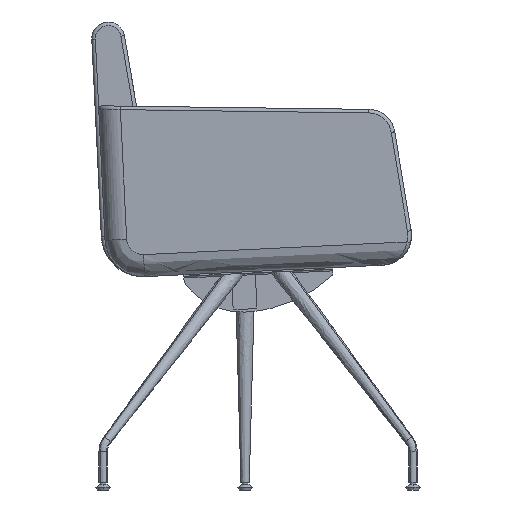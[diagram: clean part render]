
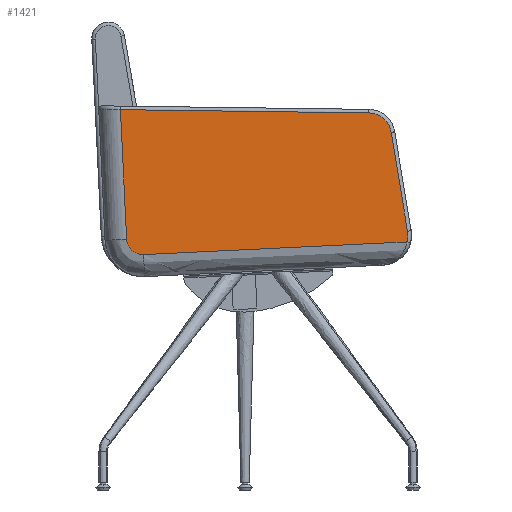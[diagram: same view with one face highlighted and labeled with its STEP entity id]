
A CAD part, left-side view. The second image highlights one B-rep face of the part: STEP entity #1421.
In plain terms, the highlighted planar face has unit normal (-1, 0.019, 0).
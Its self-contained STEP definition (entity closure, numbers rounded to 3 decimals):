
#610=(
BOUNDED_CURVE()
B_SPLINE_CURVE(3,(#11839,#11840,#11841,#11842,#11843,#11844),
 .UNSPECIFIED.,.F.,.F.)
B_SPLINE_CURVE_WITH_KNOTS((4,1,1,4),(0.574,16.302,
26.915,42.99),.UNSPECIFIED.)
CURVE()
GEOMETRIC_REPRESENTATION_ITEM()
RATIONAL_B_SPLINE_CURVE((1.,1.,1.,1.,1.,
1.))
REPRESENTATION_ITEM('')
);
#617=(
BOUNDED_CURVE()
B_SPLINE_CURVE(1,(#11862,#11863),.UNSPECIFIED.,.F.,.F.)
B_SPLINE_CURVE_WITH_KNOTS((2,2),(8.235,225.966),
 .UNSPECIFIED.)
CURVE()
GEOMETRIC_REPRESENTATION_ITEM()
RATIONAL_B_SPLINE_CURVE((1.,1.))
REPRESENTATION_ITEM('')
);
#620=(
BOUNDED_CURVE()
B_SPLINE_CURVE(3,(#11874,#11875,#11876,#11877,#11878),.UNSPECIFIED.,.F.,
 .F.)
B_SPLINE_CURVE_WITH_KNOTS((4,1,4),(0.019,27.333,54.402),
 .UNSPECIFIED.)
CURVE()
GEOMETRIC_REPRESENTATION_ITEM()
RATIONAL_B_SPLINE_CURVE((1.,1.,1.,1.,1.))
REPRESENTATION_ITEM('')
);
#624=(
BOUNDED_CURVE()
B_SPLINE_CURVE(1,(#11887,#11888),.UNSPECIFIED.,.F.,.F.)
B_SPLINE_CURVE_WITH_KNOTS((2,2),(0.117,416.598),
 .UNSPECIFIED.)
CURVE()
GEOMETRIC_REPRESENTATION_ITEM()
RATIONAL_B_SPLINE_CURVE((1.,1.))
REPRESENTATION_ITEM('')
);
#629=(
BOUNDED_CURVE()
B_SPLINE_CURVE(1,(#11908,#11909),.UNSPECIFIED.,.F.,.F.)
B_SPLINE_CURVE_WITH_KNOTS((2,2),(0.019,167.948),
 .UNSPECIFIED.)
CURVE()
GEOMETRIC_REPRESENTATION_ITEM()
RATIONAL_B_SPLINE_CURVE((1.,1.))
REPRESENTATION_ITEM('')
);
#632=(
BOUNDED_CURVE()
B_SPLINE_CURVE(3,(#11917,#11918,#11919,#11920),.UNSPECIFIED.,.F.,.F.)
B_SPLINE_CURVE_WITH_KNOTS((4,4),(-1.65,16.592),
 .UNSPECIFIED.)
CURVE()
GEOMETRIC_REPRESENTATION_ITEM()
RATIONAL_B_SPLINE_CURVE((1.,1.,1.,1.))
REPRESENTATION_ITEM('')
);
#1421=ADVANCED_FACE('',(#1796),#5342,.T.);
#1796=FACE_OUTER_BOUND('',#2174,.T.);
#2174=EDGE_LOOP('',(#3547,#3548,#3549,#3550,#3551,#3552,#3553));
#3547=ORIENTED_EDGE('',*,*,#4541,.T.);
#3548=ORIENTED_EDGE('',*,*,#4538,.T.);
#3549=ORIENTED_EDGE('',*,*,#4529,.T.);
#3550=ORIENTED_EDGE('',*,*,#4533,.T.);
#3551=ORIENTED_EDGE('',*,*,#4525,.T.);
#3552=ORIENTED_EDGE('',*,*,#4518,.F.);
#3553=ORIENTED_EDGE('',*,*,#4526,.F.);
#4518=EDGE_CURVE('',#5189,#5190,#610,.T.);
#4525=EDGE_CURVE('',#5199,#5190,#617,.T.);
#4526=EDGE_CURVE('',#5201,#5189,#4790,.T.);
#4529=EDGE_CURVE('',#5204,#5203,#620,.T.);
#4533=EDGE_CURVE('',#5203,#5199,#624,.T.);
#4538=EDGE_CURVE('',#5202,#5204,#629,.T.);
#4541=EDGE_CURVE('',#5201,#5202,#632,.T.);
#4790=B_SPLINE_CURVE_WITH_KNOTS('',1,(#11864,#11865),.UNSPECIFIED.,.F.,
 .F.,(2,2),(14.204,456.936),.UNSPECIFIED.);
#5189=VERTEX_POINT('',#11803);
#5190=VERTEX_POINT('',#11804);
#5199=VERTEX_POINT('',#11813);
#5201=VERTEX_POINT('',#11815);
#5202=VERTEX_POINT('',#11816);
#5203=VERTEX_POINT('',#11817);
#5204=VERTEX_POINT('',#11818);
#5342=PLANE('',#5484);
#5484=AXIS2_PLACEMENT_3D('',#11593,#5543,$);
#5543=DIRECTION('',(-1.,0.019,0.));
#11593=CARTESIAN_POINT('',(-1316.892,258.768,351.764));
#11803=CARTESIAN_POINT('',(-1318.189,192.279,394.941));
#11804=CARTESIAN_POINT('',(-1317.638,220.544,420.614));
#11813=CARTESIAN_POINT('',(-1317.434,231.,638.094));
#11815=CARTESIAN_POINT('',(-1326.808,-249.859,416.198));
#11816=CARTESIAN_POINT('',(-1326.824,-250.654,434.293));
#11817=CARTESIAN_POINT('',(-1325.551,-185.366,632.636));
#11818=CARTESIAN_POINT('',(-1326.291,-223.335,599.984));
#11839=CARTESIAN_POINT('',(-1318.189,192.279,394.941));
#11840=CARTESIAN_POINT('',(-1318.086,197.519,394.673));
#11841=CARTESIAN_POINT('',(-1317.914,206.388,396.904));
#11842=CARTESIAN_POINT('',(-1317.704,217.128,406.529));
#11843=CARTESIAN_POINT('',(-1317.642,220.304,415.256));
#11844=CARTESIAN_POINT('',(-1317.638,220.544,420.614));
#11862=CARTESIAN_POINT('',(-1317.434,231.,638.094));
#11863=CARTESIAN_POINT('',(-1317.638,220.544,420.614));
#11864=CARTESIAN_POINT('',(-1326.808,-249.859,416.198));
#11865=CARTESIAN_POINT('',(-1318.189,192.279,394.941));
#11874=CARTESIAN_POINT('',(-1326.291,-223.335,599.984));
#11875=CARTESIAN_POINT('',(-1326.263,-221.897,608.981));
#11876=CARTESIAN_POINT('',(-1326.077,-212.368,625.713));
#11877=CARTESIAN_POINT('',(-1325.727,-194.393,632.56));
#11878=CARTESIAN_POINT('',(-1325.551,-185.366,632.636));
#11887=CARTESIAN_POINT('',(-1325.551,-185.366,632.636));
#11888=CARTESIAN_POINT('',(-1317.434,231.,638.094));
#11908=CARTESIAN_POINT('',(-1326.824,-250.654,434.293));
#11909=CARTESIAN_POINT('',(-1326.291,-223.335,599.984));
#11917=CARTESIAN_POINT('',(-1326.808,-249.859,416.198));
#11918=CARTESIAN_POINT('',(-1326.838,-251.368,422.088));
#11919=CARTESIAN_POINT('',(-1326.843,-251.652,428.294));
#11920=CARTESIAN_POINT('',(-1326.824,-250.654,434.293));
